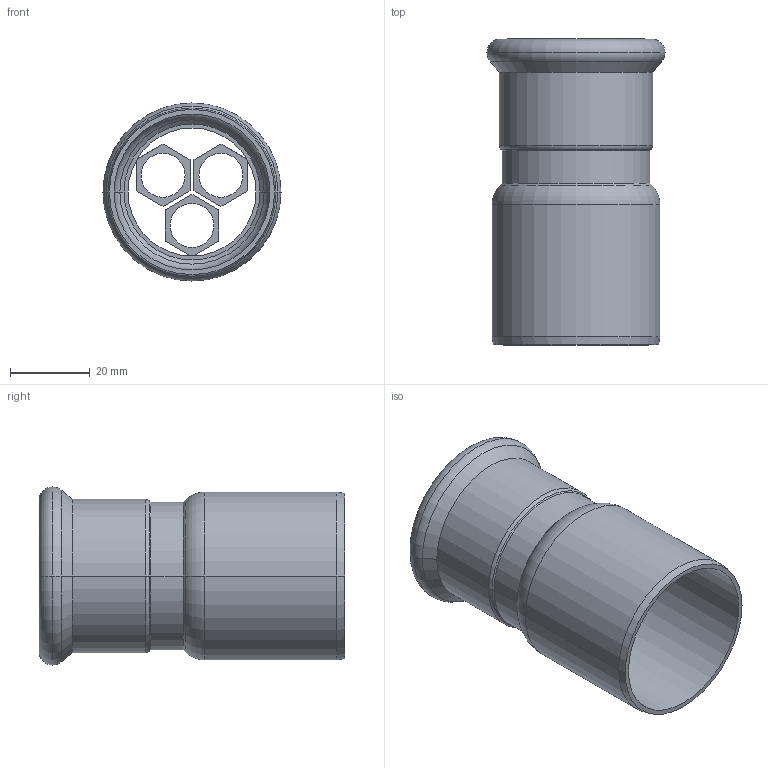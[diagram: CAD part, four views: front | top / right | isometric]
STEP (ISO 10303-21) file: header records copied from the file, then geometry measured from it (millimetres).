
FILE_DESCRIPTION(('OneSpaceDesigner STEP Export'),'2;1');
FILE_NAME('R2707 35x42.stp','2010-06-09T13:38:45',(''),(''),'OneSpace Designer STEP processor for AP214 (Solid Model)','OneSpace Modeling 15.00A 14-Mar-2007 (C) CoCreate Software GmbH','');
FILE_SCHEMA(('AUTOMOTIVE_DESIGN { 1 0 10303 214 1 1 1 1 }'));
Length unit declared in the file: millimetre
Products named in the file (2): R2707_35x42
Assembly tree (1 placements, depth 2):
  R2707_35x42
    R2707_35x42
Bounding box: 44.55 x 76.5 x 44.55 mm (x, y, z)
Volume: 17201.4 mm3; surface area: 20708.4 mm2
Topology: 1 solids, 1 shells, 74 faces, 175 edges, 108 vertices
Faces by surface type: plane 31, cylinder 23, cone 10, torus 10
Entity records: 1888 total; most frequent: ORIENTED_EDGE 350, CARTESIAN_POINT 299, DIRECTION 283, EDGE_CURVE 175, VERTEX_POINT 108, VECTOR 99, LINE 99, AXIS2_PLACEMENT_3D 92
